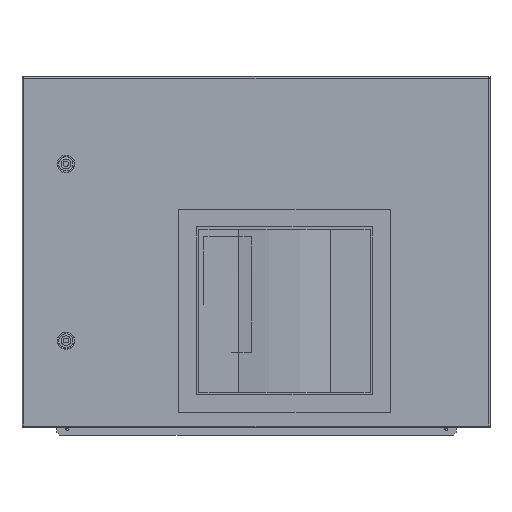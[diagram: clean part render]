
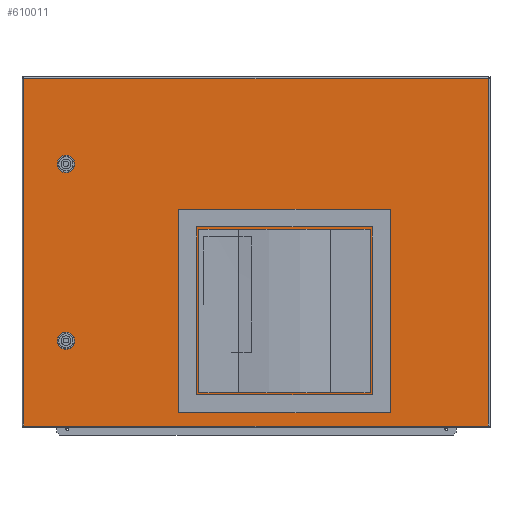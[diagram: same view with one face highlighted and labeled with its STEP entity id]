
A CAD part, top view. The second image highlights one B-rep face of the part: STEP entity #610011.
In plain terms, the highlighted planar face has unit normal (0, 0, 1).
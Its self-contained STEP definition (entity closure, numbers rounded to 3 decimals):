
#603896=CARTESIAN_POINT(' ',(393.1,544.7,26.9));
#603897=VERTEX_POINT(' ',#603896);
#604631=CARTESIAN_POINT(' ',(393.1,-44.7,26.9));
#604632=VERTEX_POINT(' ',#604631);
#605596=CARTESIAN_POINT(' ',(393.1,544.7,26.9));
#605601=DIRECTION(' ',(0.,-1.,0.));
#605606=VECTOR(' ',#605601,1.);
#605611=LINE('',#605596,#605606);
#605616=EDGE_CURVE(' ',#603897,#604632,#605611,.T.);
#607896=CARTESIAN_POINT(' ',(-395.3,-44.7,26.9));
#607897=VERTEX_POINT(' ',#607896);
#608511=CARTESIAN_POINT(' ',(-395.3,544.7,26.9));
#608512=VERTEX_POINT(' ',#608511);
#609881=DIRECTION(' ',(-0.,-0.,1.));
#609886=CARTESIAN_POINT(' ',(393.1,-44.7,26.9));
#609891=DIRECTION(' ',(0.,1.,0.));
#609896=AXIS2_PLACEMENT_3D(' ',#609886,#609881,#609891);
#609901=PLANE('NONE',#609896);
#609906=CARTESIAN_POINT(' ',(-395.3,-44.7,26.9));
#609911=DIRECTION(' ',(1.,0.,0.));
#609916=VECTOR(' ',#609911,1.);
#609921=LINE('',#609906,#609916);
#609926=EDGE_CURVE(' ',#607897,#604632,#609921,.T.);
#609931=ORIENTED_EDGE(' ',*,*,#609926,.T.);
#609936=ORIENTED_EDGE(' ',*,*,#605616,.F.);
#609941=CARTESIAN_POINT(' ',(393.1,544.7,26.9));
#609946=DIRECTION(' ',(-1.,0.,0.));
#609951=VECTOR(' ',#609946,1.);
#609956=LINE('',#609941,#609951);
#609961=EDGE_CURVE(' ',#603897,#608512,#609956,.T.);
#609966=ORIENTED_EDGE(' ',*,*,#609961,.T.);
#609971=CARTESIAN_POINT(' ',(-395.3,544.7,26.9));
#609976=DIRECTION(' ',(0.,-1.,0.));
#609981=VECTOR(' ',#609976,1.);
#609986=LINE('',#609971,#609981);
#609991=EDGE_CURVE(' ',#608512,#607897,#609986,.T.);
#609996=ORIENTED_EDGE(' ',*,*,#609991,.T.);
#610001=EDGE_LOOP(' ',(#609931,#609936,#609966,#609996));
#610006=FACE_OUTER_BOUND(' ',#610001,.T.);
#610011=ADVANCED_FACE('NONE',(#610006),#609901,.T.);
